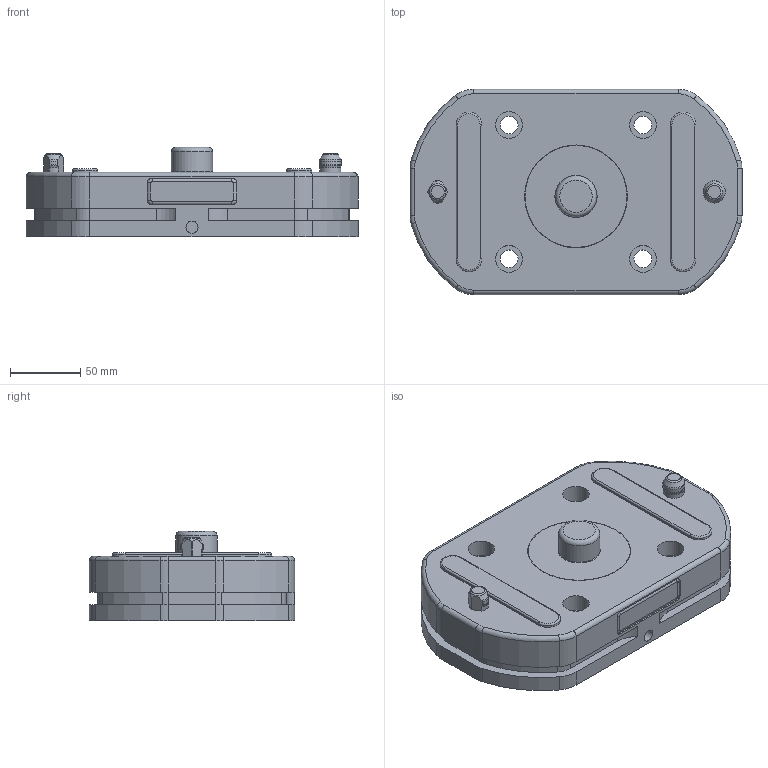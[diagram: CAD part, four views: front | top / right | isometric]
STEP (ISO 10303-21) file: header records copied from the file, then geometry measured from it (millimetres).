
FILE_DESCRIPTION(/* description */ (''),/* implementation_level */ '2;1');
FILE_NAME(/* name */ 'C:/Users/XPS Desktop/Dropbox/Distributable/MPS/MPS Base 2020.step',/* time_stamp */ '2022-02-17T09:29:29-08:00',/* author */ (''),/* organization */ (''),/* preprocessor_version */ 'ST-DEVELOPER v18.1',/* originating_system */ 'Autodesk Translation Framework v10.13.0.1454',/* authorisation */ '');
FILE_SCHEMA (('AUTOMOTIVE_DESIGN { 1 0 10303 214 3 1 1 }'));
Length unit declared in the file: inch
Products named in the file (10): MPS Base; Rectangular Dome Label v1; Component4; Component2; Brake Cover V2 Rev A v1; Round Pin v20; Component7; Diamond Pin v1 v19; Component9; Component11
Assembly tree (9 placements, depth 3):
  MPS Base
    Rectangular Dome Label v1
      Component4
    Component2
    Brake Cover V2 Rev A v1
    Round Pin v20
      Component7
    Diamond Pin v1 v19
      Component9
    Component11
Bounding box: 236.22 x 146.05 x 63.5 mm (x, y, z)
Surface area: 226113.7 mm2
Topology: 2 solids, 2 shells, 351 faces, 896 edges, 577 vertices
Faces by surface type: cylinder 196, plane 104, torus 45, bspline 4, cone 2
Full cylindrical faces by diameter (mm): 8.611 x2, 12.7 x2, 12.725 x8, 14.859 x1, 15.875 x1, 19.05 x8, 29.337 x1, 72.644 x1, 73.152 x2
Entity records: 11184 total; most frequent: DIRECTION 2060, CARTESIAN_POINT 2015, ORIENTED_EDGE 1792, EDGE_CURVE 896, AXIS2_PLACEMENT_3D 824, VERTEX_POINT 577, CIRCLE 457, LINE 412
